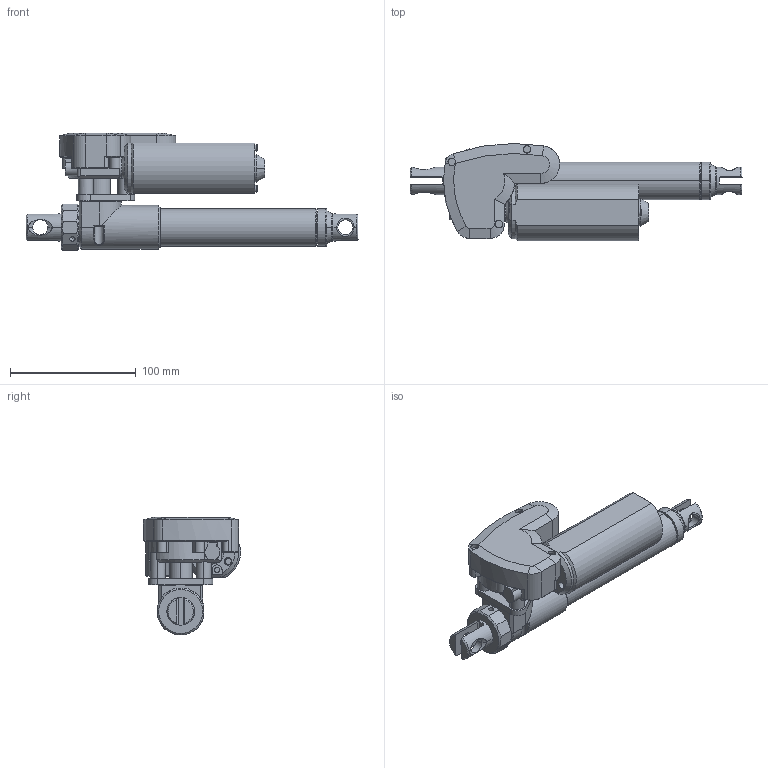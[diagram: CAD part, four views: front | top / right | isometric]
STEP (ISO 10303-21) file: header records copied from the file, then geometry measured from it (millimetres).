
FILE_DESCRIPTION((''),'2;1');
FILE_NAME('MD57-A_ASM','2016-04-19T',('hank'),(''),'PRO/ENGINEER BY PARAMETRIC TECHNOLOGY CORPORATION, 2014200','PRO/ENGINEER BY PARAMETRIC TECHNOLOGY CORPORATION, 2014200','');
FILE_SCHEMA(('CONFIG_CONTROL_DESIGN'));
Length unit declared in the file: millimetre
Products named in the file (3): MD57-LT; INNERTUBE; MD57-A_ASM
Assembly tree (2 placements, depth 2):
  MD57-A_ASM
    MD57-LT
    INNERTUBE
Bounding box: 264.3 x 77.22 x 93.3 mm (x, y, z)
Volume: 414561.3 mm3; surface area: 110068.9 mm2
Topology: 2 solids, 6 shells, 453 faces, 1164 edges, 747 vertices
Faces by surface type: plane 192, cylinder 165, cone 80, torus 10, bspline 6
Entity records: 15351 total; most frequent: CARTESIAN_POINT 4107, DIRECTION 2395, ORIENTED_EDGE 2328, EDGE_CURVE 1164, AXIS2_PLACEMENT_3D 933, VERTEX_POINT 747, VECTOR 529, LINE 529
